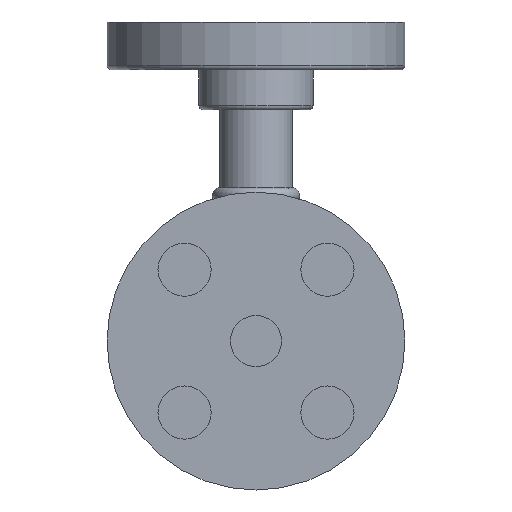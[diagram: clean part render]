
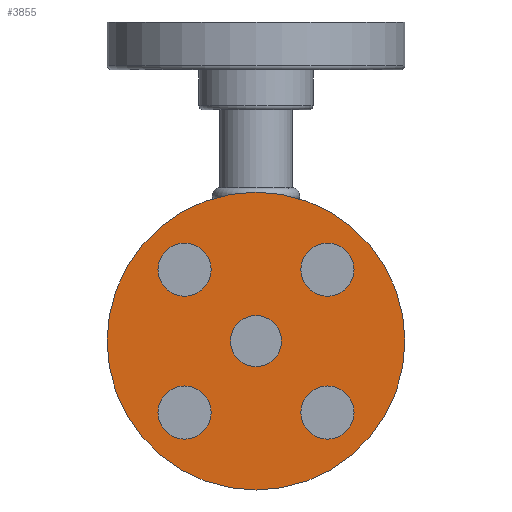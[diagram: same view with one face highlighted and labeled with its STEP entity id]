
A CAD part, front view. The second image highlights one B-rep face of the part: STEP entity #3855.
In plain terms, the highlighted planar face has unit normal (0, -1, 0).
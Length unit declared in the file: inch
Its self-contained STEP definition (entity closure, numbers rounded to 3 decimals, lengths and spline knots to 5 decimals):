
#163 = DIRECTION ( 'NONE',  ( 0., 1., 0. ) ) ;
#255 = CARTESIAN_POINT ( 'NONE',  ( -0.83969, -2.625, -1.15219 ) ) ;
#271 = ORIENTED_EDGE ( 'NONE', *, *, #2715, .T. ) ;
#326 = DIRECTION ( 'NONE',  ( 0., 1., 0. ) ) ;
#418 = ORIENTED_EDGE ( 'NONE', *, *, #1613, .T. ) ;
#442 = CARTESIAN_POINT ( 'NONE',  ( -0.83969, -2.625, -0.83969 ) ) ;
#444 = VERTEX_POINT ( 'NONE', #3035 ) ;
#465 = DIRECTION ( 'NONE',  ( 0., 0., 1. ) ) ;
#521 = FACE_BOUND ( 'NONE', #3072, .T. ) ;
#546 = EDGE_CURVE ( 'NONE', #725, #571, #2694, .T. ) ;
#571 = VERTEX_POINT ( 'NONE', #1405 ) ;
#716 = CARTESIAN_POINT ( 'NONE',  ( 0., -2.625, 0. ) ) ;
#725 = VERTEX_POINT ( 'NONE', #2189 ) ;
#770 = VERTEX_POINT ( 'NONE', #884 ) ;
#807 = CARTESIAN_POINT ( 'NONE',  ( -0.83969, -2.625, -0.52719 ) ) ;
#843 = AXIS2_PLACEMENT_3D ( 'NONE', #2608, #5282, #3010 ) ;
#884 = CARTESIAN_POINT ( 'NONE',  ( 0.83969, -2.625, 0.52719 ) ) ;
#924 = VERTEX_POINT ( 'NONE', #1946 ) ;
#932 = DIRECTION ( 'NONE',  ( -1., 0., 0. ) ) ;
#933 = VERTEX_POINT ( 'NONE', #1530 ) ;
#947 = AXIS2_PLACEMENT_3D ( 'NONE', #4145, #1761, #4514 ) ;
#972 = FACE_BOUND ( 'NONE', #3395, .T. ) ;
#1041 = CIRCLE ( 'NONE', #843, 0.3125 ) ;
#1126 = AXIS2_PLACEMENT_3D ( 'NONE', #2611, #5285, #3013 ) ;
#1182 = DIRECTION ( 'NONE',  ( 0., 0., 1. ) ) ;
#1260 = CARTESIAN_POINT ( 'NONE',  ( 0., -2.625, 0. ) ) ;
#1285 = EDGE_LOOP ( 'NONE', ( #4724, #5186 ) ) ;
#1298 = PLANE ( 'NONE',  #1991 ) ;
#1316 = AXIS2_PLACEMENT_3D ( 'NONE', #2964, #326, #3354 ) ;
#1345 = VERTEX_POINT ( 'NONE', #2366 ) ;
#1405 = CARTESIAN_POINT ( 'NONE',  ( 0., -2.625, 1.75 ) ) ;
#1410 = EDGE_CURVE ( 'NONE', #444, #3787, #3181, .T. ) ;
#1530 = CARTESIAN_POINT ( 'NONE',  ( 0.83969, -2.625, -0.52719 ) ) ;
#1540 = CARTESIAN_POINT ( 'NONE',  ( -0.83969, -2.625, 0.83969 ) ) ;
#1613 = EDGE_CURVE ( 'NONE', #3787, #444, #3378, .T. ) ;
#1636 = ORIENTED_EDGE ( 'NONE', *, *, #2352, .T. ) ;
#1659 = CARTESIAN_POINT ( 'NONE',  ( 0.83969, -2.625, 1.15219 ) ) ;
#1722 = DIRECTION ( 'NONE',  ( 0., 0., 1. ) ) ;
#1752 = ORIENTED_EDGE ( 'NONE', *, *, #4683, .T. ) ;
#1757 = CIRCLE ( 'NONE', #1126, 0.3125 ) ;
#1761 = DIRECTION ( 'NONE',  ( 0., 1., 0. ) ) ;
#1768 = FACE_BOUND ( 'NONE', #4252, .T. ) ;
#1946 = CARTESIAN_POINT ( 'NONE',  ( -0.83969, -2.625, 1.15219 ) ) ;
#1978 = DIRECTION ( 'NONE',  ( 0., 0., 1. ) ) ;
#1988 = ORIENTED_EDGE ( 'NONE', *, *, #2699, .T. ) ;
#1991 = AXIS2_PLACEMENT_3D ( 'NONE', #2601, #5271, #3000 ) ;
#2008 = CARTESIAN_POINT ( 'NONE',  ( -0.83969, -2.625, 0.52719 ) ) ;
#2043 = DIRECTION ( 'NONE',  ( 0., 1., 0. ) ) ;
#2090 = AXIS2_PLACEMENT_3D ( 'NONE', #1260, #4111, #1722 ) ;
#2189 = CARTESIAN_POINT ( 'NONE',  ( 0., -2.625, -1.75 ) ) ;
#2227 = CIRCLE ( 'NONE', #2983, 0.3125 ) ;
#2352 = EDGE_CURVE ( 'NONE', #924, #3346, #3835, .T. ) ;
#2366 = CARTESIAN_POINT ( 'NONE',  ( 0.83969, -2.625, -1.15219 ) ) ;
#2456 = CARTESIAN_POINT ( 'NONE',  ( -0.83969, -2.625, 0.83969 ) ) ;
#2601 = CARTESIAN_POINT ( 'NONE',  ( 0., -2.625, 0. ) ) ;
#2608 = CARTESIAN_POINT ( 'NONE',  ( -0.83969, -2.625, -0.83969 ) ) ;
#2611 = CARTESIAN_POINT ( 'NONE',  ( 0.83969, -2.625, 0.83969 ) ) ;
#2694 = CIRCLE ( 'NONE', #4554, 1.75 ) ;
#2699 = EDGE_CURVE ( 'NONE', #3346, #924, #3530, .T. ) ;
#2715 = EDGE_CURVE ( 'NONE', #933, #1345, #2227, .T. ) ;
#2824 = AXIS2_PLACEMENT_3D ( 'NONE', #442, #3437, #932 ) ;
#2832 = CARTESIAN_POINT ( 'NONE',  ( 0., -2.625, 0. ) ) ;
#2839 = ORIENTED_EDGE ( 'NONE', *, *, #546, .F. ) ;
#2859 = DIRECTION ( 'NONE',  ( 0., 0., 1. ) ) ;
#2877 = FACE_BOUND ( 'NONE', #3265, .T. ) ;
#2926 = EDGE_CURVE ( 'NONE', #3192, #3805, #4940, .T. ) ;
#2936 = CIRCLE ( 'NONE', #947, 0.3125 ) ;
#2964 = CARTESIAN_POINT ( 'NONE',  ( 0.83969, -2.625, -0.83969 ) ) ;
#2983 = AXIS2_PLACEMENT_3D ( 'NONE', #4393, #2043, #4761 ) ;
#3000 = DIRECTION ( 'NONE',  ( 0., 0., 1. ) ) ;
#3006 = AXIS2_PLACEMENT_3D ( 'NONE', #2456, #5128, #2859 ) ;
#3010 = DIRECTION ( 'NONE',  ( -1., 0., 0. ) ) ;
#3013 = DIRECTION ( 'NONE',  ( 1., 0., 0. ) ) ;
#3035 = CARTESIAN_POINT ( 'NONE',  ( 0., -2.625, -0.3 ) ) ;
#3040 = CIRCLE ( 'NONE', #1316, 0.3125 ) ;
#3072 = EDGE_LOOP ( 'NONE', ( #3241, #418 ) ) ;
#3076 = DIRECTION ( 'NONE',  ( 0., 1., 0. ) ) ;
#3181 = CIRCLE ( 'NONE', #3964, 0.3 ) ;
#3192 = VERTEX_POINT ( 'NONE', #255 ) ;
#3220 = DIRECTION ( 'NONE',  ( 0., 0., 1. ) ) ;
#3241 = ORIENTED_EDGE ( 'NONE', *, *, #1410, .T. ) ;
#3265 = EDGE_LOOP ( 'NONE', ( #1988, #1636 ) ) ;
#3272 = AXIS2_PLACEMENT_3D ( 'NONE', #1540, #4325, #1978 ) ;
#3273 = EDGE_LOOP ( 'NONE', ( #2839, #4621 ) ) ;
#3346 = VERTEX_POINT ( 'NONE', #2008 ) ;
#3354 = DIRECTION ( 'NONE',  ( 0., 0., -1. ) ) ;
#3378 = CIRCLE ( 'NONE', #3802, 0.3 ) ;
#3395 = EDGE_LOOP ( 'NONE', ( #4513, #4143 ) ) ;
#3437 = DIRECTION ( 'NONE',  ( 0., 1., 0. ) ) ;
#3530 = CIRCLE ( 'NONE', #3006, 0.3125 ) ;
#3662 = DIRECTION ( 'NONE',  ( 0., 1., 0. ) ) ;
#3781 = EDGE_CURVE ( 'NONE', #571, #725, #5130, .T. ) ;
#3787 = VERTEX_POINT ( 'NONE', #4462 ) ;
#3802 = AXIS2_PLACEMENT_3D ( 'NONE', #716, #3662, #1182 ) ;
#3805 = VERTEX_POINT ( 'NONE', #807 ) ;
#3835 = CIRCLE ( 'NONE', #3272, 0.3125 ) ;
#3855 = ADVANCED_FACE ( 'NONE', ( #3880, #972, #4892, #2877, #1768, #521 ), #1298, .F. ) ;
#3880 = FACE_BOUND ( 'NONE', #1285, .T. ) ;
#3964 = AXIS2_PLACEMENT_3D ( 'NONE', #2832, #163, #3220 ) ;
#4111 = DIRECTION ( 'NONE',  ( 0., 1., 0. ) ) ;
#4143 = ORIENTED_EDGE ( 'NONE', *, *, #5018, .T. ) ;
#4145 = CARTESIAN_POINT ( 'NONE',  ( 0.83969, -2.625, 0.83969 ) ) ;
#4252 = EDGE_LOOP ( 'NONE', ( #1752, #271 ) ) ;
#4325 = DIRECTION ( 'NONE',  ( 0., 1., 0. ) ) ;
#4393 = CARTESIAN_POINT ( 'NONE',  ( 0.83969, -2.625, -0.83969 ) ) ;
#4462 = CARTESIAN_POINT ( 'NONE',  ( 0., -2.625, 0.3 ) ) ;
#4513 = ORIENTED_EDGE ( 'NONE', *, *, #4754, .T. ) ;
#4514 = DIRECTION ( 'NONE',  ( 1., 0., 0. ) ) ;
#4554 = AXIS2_PLACEMENT_3D ( 'NONE', #5348, #3076, #465 ) ;
#4592 = VERTEX_POINT ( 'NONE', #1659 ) ;
#4621 = ORIENTED_EDGE ( 'NONE', *, *, #3781, .F. ) ;
#4683 = EDGE_CURVE ( 'NONE', #1345, #933, #3040, .T. ) ;
#4724 = ORIENTED_EDGE ( 'NONE', *, *, #2926, .T. ) ;
#4754 = EDGE_CURVE ( 'NONE', #770, #4592, #2936, .T. ) ;
#4761 = DIRECTION ( 'NONE',  ( 0., 0., -1. ) ) ;
#4783 = EDGE_CURVE ( 'NONE', #3805, #3192, #1041, .T. ) ;
#4892 = FACE_OUTER_BOUND ( 'NONE', #3273, .T. ) ;
#4940 = CIRCLE ( 'NONE', #2824, 0.3125 ) ;
#5018 = EDGE_CURVE ( 'NONE', #4592, #770, #1757, .T. ) ;
#5128 = DIRECTION ( 'NONE',  ( 0., 1., 0. ) ) ;
#5130 = CIRCLE ( 'NONE', #2090, 1.75 ) ;
#5186 = ORIENTED_EDGE ( 'NONE', *, *, #4783, .T. ) ;
#5271 = DIRECTION ( 'NONE',  ( 0., 1., 0. ) ) ;
#5282 = DIRECTION ( 'NONE',  ( 0., 1., 0. ) ) ;
#5285 = DIRECTION ( 'NONE',  ( 0., 1., 0. ) ) ;
#5348 = CARTESIAN_POINT ( 'NONE',  ( 0., -2.625, 0. ) ) ;
